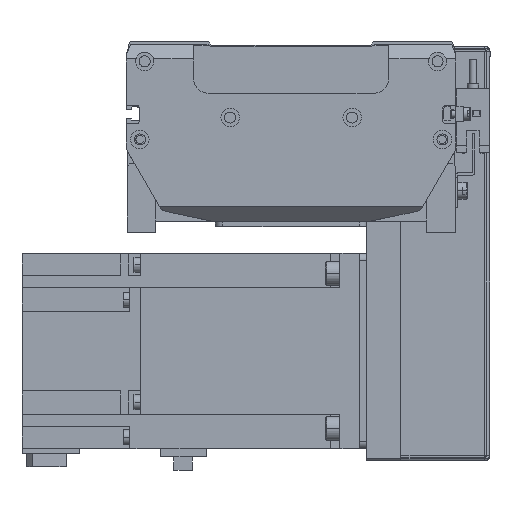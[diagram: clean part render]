
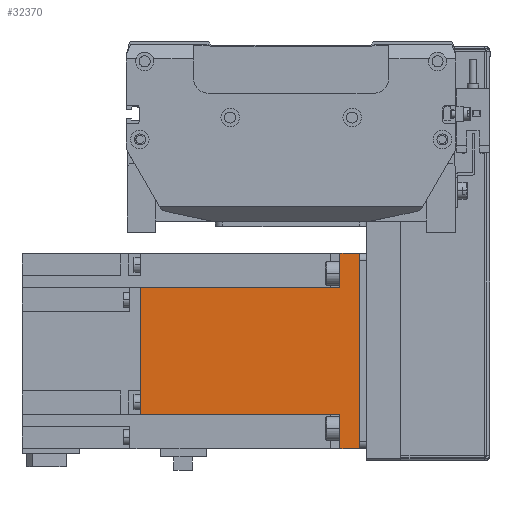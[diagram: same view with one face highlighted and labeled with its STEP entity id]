
A CAD part, front view. The second image highlights one B-rep face of the part: STEP entity #32370.
In plain terms, the highlighted planar face has unit normal (0, -1, 0) as drawn and (0, 0, -1) by its records, which use the part's own axes.
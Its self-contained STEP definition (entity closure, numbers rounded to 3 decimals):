
#35 = CARTESIAN_POINT ( 'NONE',  ( 25.95, 89.8, -40. ) ) ;
#2707 = DIRECTION ( 'NONE',  ( 0., 1., 0. ) ) ;
#2756 = DIRECTION ( 'NONE',  ( -1., 0., 0. ) ) ;
#2794 = LINE ( 'NONE', #43109, #21352 ) ;
#2807 = VECTOR ( 'NONE', #14314, 1000. ) ;
#3061 = LINE ( 'NONE', #9921, #37677 ) ;
#4721 = LINE ( 'NONE', #49376, #24591 ) ;
#5401 = EDGE_CURVE ( 'NONE', #5622, #36514, #49167, .T. ) ;
#5622 = VERTEX_POINT ( 'NONE', #17054 ) ;
#5750 = DIRECTION ( 'NONE',  ( 0., 1., 0. ) ) ;
#6859 = VERTEX_POINT ( 'NONE', #27425 ) ;
#7053 = CARTESIAN_POINT ( 'NONE',  ( -40., 0., -40. ) ) ;
#7257 = CARTESIAN_POINT ( 'NONE',  ( 25.95, 89.8, -40. ) ) ;
#7840 = EDGE_CURVE ( 'NONE', #5622, #45592, #2794, .T. ) ;
#9556 = AXIS2_PLACEMENT_3D ( 'NONE', #33576, #37218, #29429 ) ;
#9921 = CARTESIAN_POINT ( 'NONE',  ( 40., 8., -40. ) ) ;
#10201 = ORIENTED_EDGE ( 'NONE', *, *, #34204, .T. ) ;
#13001 = LINE ( 'NONE', #30156, #35910 ) ;
#13896 = EDGE_LOOP ( 'NONE', ( #24762, #34383, #21088, #10201, #21687, #37501, #48839, #31903 ) ) ;
#14314 = DIRECTION ( 'NONE',  ( 0., -1., 0. ) ) ;
#14521 = CARTESIAN_POINT ( 'NONE',  ( 40., 8., -40. ) ) ;
#17054 = CARTESIAN_POINT ( 'NONE',  ( 40., 0., -40. ) ) ;
#17100 = VECTOR ( 'NONE', #2756, 1000. ) ;
#17320 = LINE ( 'NONE', #35, #49569 ) ;
#20648 = CARTESIAN_POINT ( 'NONE',  ( 40., 8., -40. ) ) ;
#21088 = ORIENTED_EDGE ( 'NONE', *, *, #7840, .T. ) ;
#21352 = VECTOR ( 'NONE', #51328, 1000. ) ;
#21687 = ORIENTED_EDGE ( 'NONE', *, *, #24200, .F. ) ;
#23439 = EDGE_CURVE ( 'NONE', #42445, #44052, #17320, .T. ) ;
#23525 = CARTESIAN_POINT ( 'NONE',  ( -25.95, 89.8, -40. ) ) ;
#24171 = EDGE_CURVE ( 'NONE', #44052, #47749, #13001, .T. ) ;
#24200 = EDGE_CURVE ( 'NONE', #34012, #6859, #3061, .T. ) ;
#24591 = VECTOR ( 'NONE', #5750, 1000. ) ;
#24762 = ORIENTED_EDGE ( 'NONE', *, *, #50648, .F. ) ;
#27425 = CARTESIAN_POINT ( 'NONE',  ( -40., 8., -40. ) ) ;
#27926 = CARTESIAN_POINT ( 'NONE',  ( -25.95, 8., -40. ) ) ;
#27974 = EDGE_CURVE ( 'NONE', #47749, #34012, #38060, .T. ) ;
#28598 = PLANE ( 'NONE',  #9556 ) ;
#29429 = DIRECTION ( 'NONE',  ( 1., 0., 0. ) ) ;
#30156 = CARTESIAN_POINT ( 'NONE',  ( 40., 89.8, -40. ) ) ;
#30359 = CARTESIAN_POINT ( 'NONE',  ( 40., 89.8, -40. ) ) ;
#31120 = CARTESIAN_POINT ( 'NONE',  ( 25.95, 8., -40. ) ) ;
#31202 = VECTOR ( 'NONE', #2707, 1000. ) ;
#31903 = ORIENTED_EDGE ( 'NONE', *, *, #23439, .F. ) ;
#32370 = ADVANCED_FACE ( 'NONE', ( #45385 ), #28598, .F. ) ;
#33576 = CARTESIAN_POINT ( 'NONE',  ( 40., 89.8, -40. ) ) ;
#33780 = DIRECTION ( 'NONE',  ( -1., 0., 0. ) ) ;
#34012 = VERTEX_POINT ( 'NONE', #27926 ) ;
#34125 = DIRECTION ( 'NONE',  ( -1., 0., 0. ) ) ;
#34204 = EDGE_CURVE ( 'NONE', #45592, #6859, #4721, .T. ) ;
#34383 = ORIENTED_EDGE ( 'NONE', *, *, #5401, .F. ) ;
#35910 = VECTOR ( 'NONE', #33780, 1000. ) ;
#36514 = VERTEX_POINT ( 'NONE', #20648 ) ;
#37218 = DIRECTION ( 'NONE',  ( 0., 0., 1. ) ) ;
#37501 = ORIENTED_EDGE ( 'NONE', *, *, #27974, .F. ) ;
#37677 = VECTOR ( 'NONE', #34125, 1000. ) ;
#37980 = CARTESIAN_POINT ( 'NONE',  ( -25.95, 89.8, -40. ) ) ;
#38060 = LINE ( 'NONE', #37980, #2807 ) ;
#39245 = DIRECTION ( 'NONE',  ( 0., 1., 0. ) ) ;
#42445 = VERTEX_POINT ( 'NONE', #31120 ) ;
#43109 = CARTESIAN_POINT ( 'NONE',  ( 0., 0., -40. ) ) ;
#44052 = VERTEX_POINT ( 'NONE', #7257 ) ;
#44412 = LINE ( 'NONE', #14521, #17100 ) ;
#45385 = FACE_OUTER_BOUND ( 'NONE', #13896, .T. ) ;
#45592 = VERTEX_POINT ( 'NONE', #7053 ) ;
#47749 = VERTEX_POINT ( 'NONE', #23525 ) ;
#48839 = ORIENTED_EDGE ( 'NONE', *, *, #24171, .F. ) ;
#49167 = LINE ( 'NONE', #30359, #31202 ) ;
#49376 = CARTESIAN_POINT ( 'NONE',  ( -40., 89.8, -40. ) ) ;
#49569 = VECTOR ( 'NONE', #39245, 1000. ) ;
#50648 = EDGE_CURVE ( 'NONE', #36514, #42445, #44412, .T. ) ;
#51328 = DIRECTION ( 'NONE',  ( -1., 0., 0. ) ) ;
